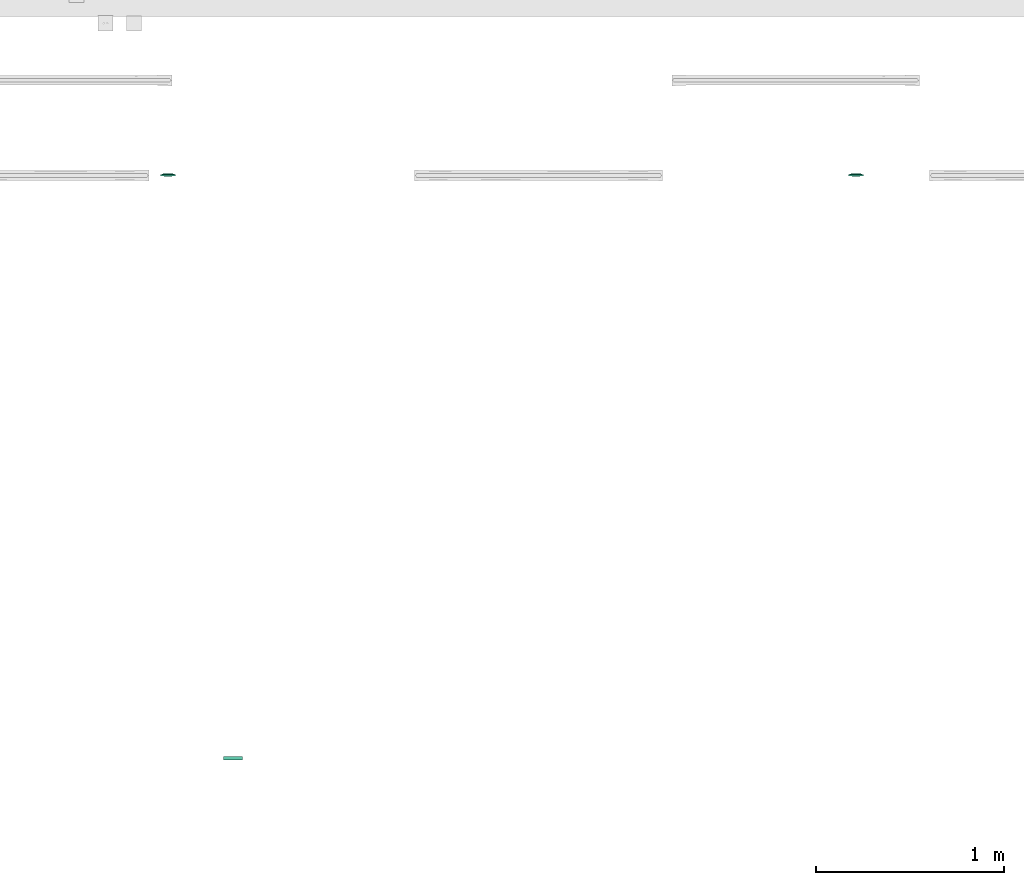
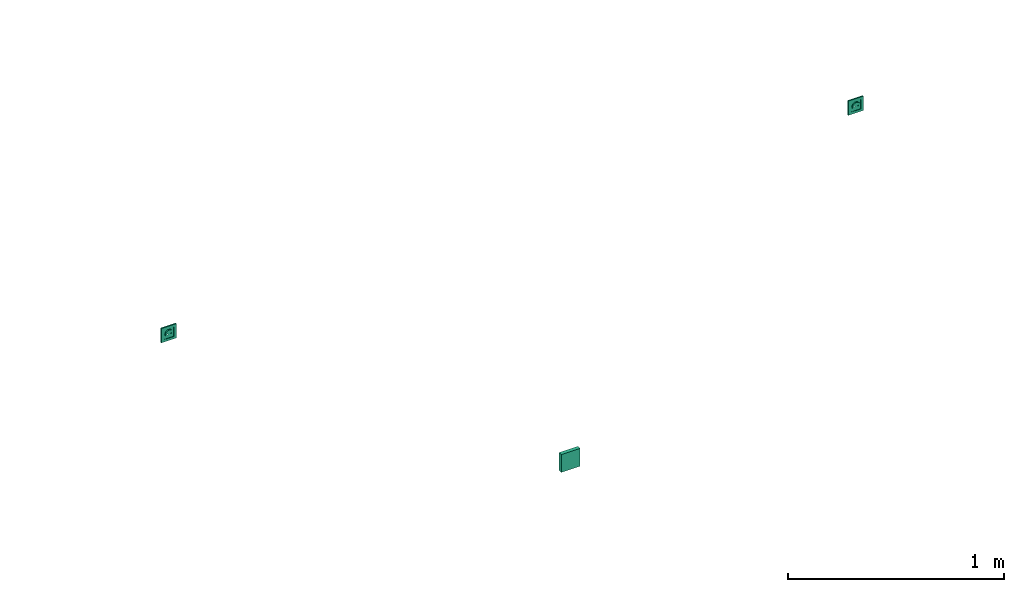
# One storey, part 7 of 146: 3 flow terminals.
"""IFC2X3 building model written with IfcOpenShell, lengths in metres."""

from ifc_helpers import new_model, entity, si_unit, converted_unit, derived_unit, direction, frame, origin, origin_2d_with_axis, place, context, subcontext, project, spatial, rectangle, extrude, face_set, surface_model, source, transform, mapped, type_object, type_shapes, element, save


model = new_model("IFC2X3")

# Units and contexts
model_context = context("Model", 3, precision=1e-05, world=origin(), true_north=direction((6.12303176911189e-17, 1.0)))
body_context = subcontext(model_context, "Body", "Model", "MODEL_VIEW")
ifc_project = project(units=[si_unit("LENGTHUNIT", "METRE"), si_unit("AREAUNIT", "SQUARE_METRE"), si_unit("VOLUMEUNIT", "CUBIC_METRE"), converted_unit("PLANEANGLEUNIT", "DEGREE", entity("IfcRatioMeasure", 0.0174532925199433), si_unit("PLANEANGLEUNIT", "RADIAN"), dimensions=[0, 0, 0, 0, 0, 0, 0]), si_unit("MASSUNIT", "GRAM", prefix="KILO"), derived_unit("MASSDENSITYUNIT", [(si_unit("MASSUNIT", "GRAM", prefix="KILO"), 1), (si_unit("LENGTHUNIT", "METRE"), -3)]), si_unit("TIMEUNIT", "SECOND"), si_unit("FREQUENCYUNIT", "HERTZ"), si_unit("THERMODYNAMICTEMPERATUREUNIT", "DEGREE_CELSIUS"), derived_unit("THERMALTRANSMITTANCEUNIT", [(si_unit("MASSUNIT", "GRAM", prefix="KILO"), 1), (si_unit("THERMODYNAMICTEMPERATUREUNIT", "KELVIN"), -1), (si_unit("TIMEUNIT", "SECOND"), -3)]), derived_unit("VOLUMETRICFLOWRATEUNIT", [(si_unit("LENGTHUNIT", "METRE"), 3), (si_unit("TIMEUNIT", "SECOND"), -1)]), si_unit("ELECTRICCURRENTUNIT", "AMPERE"), si_unit("ELECTRICVOLTAGEUNIT", "VOLT"), si_unit("POWERUNIT", "WATT"), si_unit("FORCEUNIT", "NEWTON"), si_unit("ILLUMINANCEUNIT", "LUX"), si_unit("LUMINOUSFLUXUNIT", "LUMEN"), si_unit("LUMINOUSINTENSITYUNIT", "CANDELA"), derived_unit("USERDEFINED", [(si_unit("MASSUNIT", "GRAM", prefix="KILO"), -1), (si_unit("LENGTHUNIT", "METRE"), -2), (si_unit("TIMEUNIT", "SECOND"), 3), (si_unit("LUMINOUSFLUXUNIT", "LUMEN"), 1)]), derived_unit("LINEARVELOCITYUNIT", [(si_unit("LENGTHUNIT", "METRE"), 1), (si_unit("TIMEUNIT", "SECOND"), -1)]), si_unit("PRESSUREUNIT", "PASCAL"), derived_unit("USERDEFINED", [(si_unit("LENGTHUNIT", "METRE"), -2), (si_unit("MASSUNIT", "GRAM", prefix="KILO"), 1), (si_unit("TIMEUNIT", "SECOND"), -2)])], contexts=[model_context])

# Site, building, storey
site_placement = place(None, origin())
site = spatial("IfcSite", under=ifc_project, at=site_placement, Name="Default", CompositionType="ELEMENT")
building_placement = place(site_placement, origin())
building = spatial("IfcBuilding", under=site, at=building_placement, CompositionType="ELEMENT")
storey_placement = place(building_placement, origin())
storey = spatial("IfcBuildingStorey", under=building, at=storey_placement, Name="S01", CompositionType="ELEMENT", Elevation=0.0)

# Flow terminals
light_fixture_type_1 = type_object("IfcLightFixtureType", Name="Default", PredefinedType="NOTDEFINED")
shared_shape_1 = source(origin(), body_context, "Body", "SweptSolid", [
    extrude(rectangle(XDim=0.1, YDim=0.1, at=origin_2d_with_axis()), frame((0.0, 0.0, 0.0), z_axis=(0.0, 0.0, 1.0), x_axis=(0.0, 1.0, 0.0)), (0.0, 0.0, 1.0), 0.02),
])
type_shapes(light_fixture_type_1, [shared_shape_1])
flow_terminal_placement = place(building_placement, frame((28.5197436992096, -193.489651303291, 1.05000000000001), z_axis=(0.0, -1.0, 0.0), x_axis=(1.0, 0.0, 0.0)))
element("IfcFlowTerminal", 1, at=flow_terminal_placement, inside=storey, type_object=light_fixture_type_1, Name="E_Reader_Badge 1_F_MEPcontent:Default", ObjectType="E_Reader_Badge 1_F_MEPcontent:Default", context=body_context, shape_type="MappedRepresentation", body=[
    mapped(shared_shape_1, transform((0.0, 0.0, 0.0), scale=1.0)),
])
light_fixture_type_2 = type_object("IfcLightFixtureType", Name="Attente", PredefinedType="NOTDEFINED")
shared_shape_2 = source(origin(), body_context, "Body", "SurfaceModel", [
    surface_model("IfcFaceBasedSurfaceModel", [(0.00225000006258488, 0.00949633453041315, 0.0127499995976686), (0.0, 0.00949633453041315, 0.0104999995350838), (0.0, 0.0101656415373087, 0.0115376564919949), (0.0, 0.0101656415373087, 0.0139623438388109), (0.0, 0.00984531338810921, 0.0144589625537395), (0.0, 0.0102778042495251, 0.0121178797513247), (0.0, 0.0102778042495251, 0.0133821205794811), (0.0, 0.010399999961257, 0.0127499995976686), (0.0, 0.00949633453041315, 0.0149999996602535), (-0.00225000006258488, 0.00949633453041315, 0.0127499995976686), (0.0, 0.00984531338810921, 0.0110410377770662), (0.0, 0.00949633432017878, 0.0127499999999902), (-0.0022499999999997, 0.0094963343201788, 0.0127499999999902), (-0.00217333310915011, 0.00949633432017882, 0.0121676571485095), (-0.0019485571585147, 0.00949633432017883, 0.0116249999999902), (-0.00159099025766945, 0.00949633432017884, 0.0111590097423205), (-0.00112499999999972, 0.00949633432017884, 0.0108014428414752), (-0.000582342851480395, 0.00949633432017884, 0.0105766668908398), (0.0, 0.00949633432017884, 0.0104999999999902), (0.000582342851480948, 0.00949633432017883, 0.0105766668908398), (0.00112500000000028, 0.00949633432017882, 0.0108014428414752), (0.00159099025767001, 0.00949633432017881, 0.0111590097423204), (0.00194855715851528, 0.00949633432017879, 0.0116249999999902), (0.0021733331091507, 0.00949633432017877, 0.0121676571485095), (0.0022500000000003, 0.00949633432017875, 0.0127499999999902), (0.00217333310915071, 0.00949633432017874, 0.0133323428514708), (0.0019485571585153, 0.00949633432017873, 0.0138749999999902), (0.00159099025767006, 0.00949633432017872, 0.0143409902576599), (0.00112500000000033, 0.00949633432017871, 0.0146985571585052), (0.000582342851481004, 0.00949633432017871, 0.0149233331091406), (0.0, 0.00949633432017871, 0.0149999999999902), (-0.000582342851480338, 0.00949633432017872, 0.0149233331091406), (-0.00112499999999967, 0.00949633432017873, 0.0146985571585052), (-0.00159099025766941, 0.00949633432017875, 0.0143409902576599), (-0.00194855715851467, 0.00949633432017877, 0.0138749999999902), (-0.00217333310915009, 0.00949633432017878, 0.0133323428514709), (-0.00224999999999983, -0.00360000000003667, 0.0127499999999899), (-0.00217333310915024, -0.00360000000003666, 0.0121676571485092), (-0.00194855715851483, -0.00360000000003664, 0.0116249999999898), (-0.00159099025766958, -0.00360000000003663, 0.0111590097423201), (-0.00112499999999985, -0.00360000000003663, 0.0108014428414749), (-0.000582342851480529, -0.00360000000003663, 0.0105766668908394), (0.0, -0.00360000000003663, 0.0104999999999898), (0.000582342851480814, -0.00360000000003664, 0.0105766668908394), (0.00112500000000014, -0.00360000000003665, 0.0108014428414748), (0.00159099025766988, -0.00360000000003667, 0.0111590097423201), (0.00194855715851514, -0.00360000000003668, 0.0116249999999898), (0.00217333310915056, -0.0036000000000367, 0.0121676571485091), (0.00225000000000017, -0.00360000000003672, 0.0127499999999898), (0.00217333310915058, -0.00360000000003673, 0.0133323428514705), (0.00194855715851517, -0.00360000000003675, 0.0138749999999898), (0.00159099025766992, -0.00360000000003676, 0.0143409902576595), (0.00112500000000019, -0.00360000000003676, 0.0146985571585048), (0.00058234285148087, -0.00360000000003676, 0.0149233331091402), (0.0, -0.00360000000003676, 0.0149999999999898), (-0.000582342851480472, -0.00360000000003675, 0.0149233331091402), (-0.0011249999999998, -0.00360000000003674, 0.0146985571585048), (-0.00159099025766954, -0.00360000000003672, 0.0143409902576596), (-0.0019485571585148, -0.00360000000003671, 0.0138749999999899), (-0.00217333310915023, -0.00360000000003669, 0.0133323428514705), (-0.0270000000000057, 0.0113999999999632, 0.0269999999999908), (0.0269999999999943, 0.0113999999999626, 0.0269999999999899), (0.0269999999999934, 0.0113999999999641, -0.0270000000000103), (-0.0270000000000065, 0.0113999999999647, -0.0270000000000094), (0.0199999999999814, 0.0113999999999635, 0.0), (0.0193185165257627, 0.0113999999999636, -0.00517638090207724), (0.0173205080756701, 0.0113999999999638, -0.0100000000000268), (0.0141421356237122, 0.0113999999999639, -0.0141421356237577), (0.00999999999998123, 0.011399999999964, -0.0173205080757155), (0.00517638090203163, 0.0113999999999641, -0.019318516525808), (0.0, 0.0113999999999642, -0.0200000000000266), (-0.00517638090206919, 0.0113999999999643, -0.0193185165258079), (-0.0100000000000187, 0.0113999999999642, -0.0173205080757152), (-0.0141421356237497, 0.0113999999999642, -0.0141421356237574), (-0.0173205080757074, 0.0113999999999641, -0.0100000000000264), (-0.0193185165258, 0.011399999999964, -0.0051763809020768), (-0.0200000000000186, 0.0113999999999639, 0.0), (-0.0193185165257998, 0.0113999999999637, 0.00517638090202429), (-0.0173205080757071, 0.0113999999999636, 0.00999999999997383), (-0.0141421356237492, 0.0113999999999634, 0.0141421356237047), (-0.0100000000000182, 0.0113999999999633, 0.0173205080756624), (-0.00517638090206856, 0.0113999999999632, 0.0193185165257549), (0.0, 0.0113999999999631, 0.0199999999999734), (0.00517638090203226, 0.0113999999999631, 0.0193185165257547), (0.0099999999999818, 0.0113999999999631, 0.017320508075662), (0.0141421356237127, 0.0113999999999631, 0.0141421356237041), (0.0173205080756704, 0.0113999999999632, 0.00999999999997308), (0.0193185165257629, 0.0113999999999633, 0.00517638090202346), (-0.0270000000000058, 0.00199999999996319, 0.0269999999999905), (-0.0270000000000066, 0.00199999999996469, -0.0270000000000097), (0.0269999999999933, 0.00199999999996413, -0.0270000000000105), (0.0269999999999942, 0.00199999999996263, 0.0269999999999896), (-0.0210000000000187, 0.00199999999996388, 0.0), (-0.0202844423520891, 0.00199999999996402, -0.00543519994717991), (-0.0181865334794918, 0.00199999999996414, -0.0105000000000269), (-0.0148492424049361, 0.00199999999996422, -0.0148492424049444), (-0.0105000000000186, 0.00199999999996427, -0.0181865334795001), (-0.00543519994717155, 0.00199999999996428, -0.0202844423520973), (0.0, 0.00199999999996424, -0.0210000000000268), (0.00543519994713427, 0.00199999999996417, -0.0202844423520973), (0.0104999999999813, 0.00199999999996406, -0.0181865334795), (0.0148492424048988, 0.00199999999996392, -0.0148492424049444), (0.0181865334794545, 0.00199999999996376, -0.0105000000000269), (0.0202844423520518, 0.0019999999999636, -0.00543519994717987), (0.0209999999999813, 0.00199999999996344, 0.0), (0.0202844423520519, 0.0019999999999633, 0.0054351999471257), (0.0181865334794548, 0.00199999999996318, 0.0104999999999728), (0.0148492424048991, 0.00199999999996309, 0.0148492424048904), (0.0104999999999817, 0.00199999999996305, 0.0181865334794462), (0.00543519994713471, 0.00199999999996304, 0.0202844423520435), (0.0, 0.00199999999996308, 0.0209999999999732), (-0.00543519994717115, 0.00199999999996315, 0.0202844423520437), (-0.0105000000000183, 0.00199999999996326, 0.0181865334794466), (-0.0148492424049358, 0.0019999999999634, 0.014849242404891), (-0.0181865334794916, 0.00199999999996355, 0.0104999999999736), (-0.020284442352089, 0.00199999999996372, 0.00543519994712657), (-0.0200000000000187, -0.00360000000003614, 0.0), (-0.0193185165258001, -0.003600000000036, -0.00517638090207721), (-0.0173205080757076, -0.00360000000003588, -0.0100000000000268), (-0.0141421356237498, -0.0036000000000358, -0.0141421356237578), (-0.0100000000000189, -0.00360000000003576, -0.0173205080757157), (-0.00517638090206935, -0.00360000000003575, -0.0193185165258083), (0.0, -0.00360000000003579, -0.020000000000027), (0.00517638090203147, -0.00360000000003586, -0.0193185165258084), (0.00999999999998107, -0.00360000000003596, -0.0173205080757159), (0.0141421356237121, -0.00360000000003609, -0.0141421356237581), (0.0173205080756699, -0.00360000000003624, -0.0100000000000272), (0.0193185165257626, -0.0036000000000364, -0.00517638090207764), (0.0199999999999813, -0.00360000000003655, 0.0), (0.0193185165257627, -0.00360000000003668, 0.00517638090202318), (0.0173205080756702, -0.0036000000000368, 0.00999999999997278), (0.0141421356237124, -0.00360000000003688, 0.0141421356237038), (0.00999999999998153, -0.00360000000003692, 0.0173205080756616), (0.00517638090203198, -0.00360000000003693, 0.0193185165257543), (0.0, -0.0036000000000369, 0.019999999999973), (-0.00517638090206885, -0.00360000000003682, 0.0193185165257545), (-0.0100000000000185, -0.00360000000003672, 0.0173205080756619), (-0.0141421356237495, -0.00360000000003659, 0.0141421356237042), (-0.0173205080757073, -0.00360000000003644, 0.00999999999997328), (-0.0193185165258, -0.00360000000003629, 0.00517638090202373), (0.0123499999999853, -0.00360000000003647, 0.0), (0.0122562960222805, -0.00360000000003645, -0.000711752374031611), (0.0119815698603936, -0.00360000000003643, -0.00137499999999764), (0.0115445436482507, -0.00360000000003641, -0.00194454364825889), (0.0109749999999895, -0.00360000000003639, -0.00238156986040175), (0.0103117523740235, -0.00360000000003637, -0.00265629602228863), (0.00959999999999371, -0.00360000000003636, -0.00274999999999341), (0.00888824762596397, -0.00360000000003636, -0.00265629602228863), (0.00822499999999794, -0.00360000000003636, -0.00238156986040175), (0.00765545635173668, -0.00360000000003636, -0.00194454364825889), (0.00721843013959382, -0.00360000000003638, -0.00137499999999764), (0.00694370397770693, -0.00360000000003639, -0.000711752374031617), (0.00685000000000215, -0.00360000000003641, 0.0), (0.00694370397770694, -0.00360000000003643, 0.000711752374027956), (0.00721843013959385, -0.00360000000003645, 0.00137499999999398), (0.00765545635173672, -0.00360000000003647, 0.00194454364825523), (0.00822499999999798, -0.00360000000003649, 0.00238156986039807), (0.00888824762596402, -0.00360000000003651, 0.00265629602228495), (0.00959999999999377, -0.00360000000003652, 0.0027499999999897), (0.0103117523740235, -0.00360000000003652, 0.00265629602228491), (0.0109749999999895, -0.00360000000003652, 0.00238156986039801), (0.0115445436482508, -0.00360000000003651, 0.00194454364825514), (0.0119815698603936, -0.0036000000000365, 0.00137499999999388), (0.0122562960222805, -0.00360000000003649, 0.000711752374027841), (-0.00685000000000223, -0.00360000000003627, 0.0), (-0.00694370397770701, -0.00360000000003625, -0.000711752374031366), (-0.0072184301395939, -0.00360000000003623, -0.00137499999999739), (-0.00765545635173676, -0.00360000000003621, -0.00194454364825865), (-0.00822499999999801, -0.00360000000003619, -0.0023815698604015), (-0.00888824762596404, -0.00360000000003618, -0.00265629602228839), (-0.00959999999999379, -0.00360000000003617, -0.00274999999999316), (-0.0103117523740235, -0.00360000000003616, -0.00265629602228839), (-0.0109749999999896, -0.00360000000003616, -0.00238156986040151), (-0.0115445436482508, -0.00360000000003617, -0.00194454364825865), (-0.0119815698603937, -0.00360000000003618, -0.0013749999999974), (-0.0122562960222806, -0.0036000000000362, -0.000711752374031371), (-0.0123499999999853, -0.00360000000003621, 0.0), (-0.0122562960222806, -0.00360000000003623, 0.000711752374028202), (-0.0119815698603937, -0.00360000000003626, 0.00137499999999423), (-0.0115445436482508, -0.00360000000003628, 0.00194454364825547), (-0.0109749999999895, -0.00360000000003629, 0.00238156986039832), (-0.0103117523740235, -0.00360000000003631, 0.00265629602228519), (-0.00959999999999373, -0.00360000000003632, 0.00274999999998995), (-0.00888824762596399, -0.00360000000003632, 0.00265629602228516), (-0.00822499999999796, -0.00360000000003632, 0.00238156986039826), (-0.00765545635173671, -0.00360000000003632, 0.00194454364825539), (-0.00721843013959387, -0.0036000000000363, 0.00137499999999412), (-0.00694370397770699, -0.00360000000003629, 0.000711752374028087), (-0.0210000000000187, -0.00460000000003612, 0.0), (-0.0202844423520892, -0.00460000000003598, -0.00543519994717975), (-0.018186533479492, -0.00460000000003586, -0.0105000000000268), (-0.0148492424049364, -0.00460000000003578, -0.0148492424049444), (-0.0105000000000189, -0.00460000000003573, -0.0181865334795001), (-0.00543519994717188, -0.00460000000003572, -0.0202844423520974), (0.0, -0.00460000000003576, -0.021000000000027), (0.00543519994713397, -0.00460000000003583, -0.0202844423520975), (0.0104999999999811, -0.00460000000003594, -0.0181865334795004), (0.0148492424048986, -0.00460000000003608, -0.0148492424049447), (0.0181865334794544, -0.00460000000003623, -0.0105000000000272), (0.0202844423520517, -0.0046000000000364, -0.0054351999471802), (0.0209999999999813, -0.00460000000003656, 0.0), (0.0202844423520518, -0.0046000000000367, 0.00543519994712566), (0.0181865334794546, -0.00460000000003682, 0.0104999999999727), (0.014849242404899, -0.00460000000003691, 0.0148492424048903), (0.0104999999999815, -0.00460000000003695, 0.0181865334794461), (0.0054351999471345, -0.00460000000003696, 0.0202844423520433), (0.0, -0.00460000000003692, 0.020999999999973), (-0.00543519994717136, -0.00460000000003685, 0.0202844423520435), (-0.0105000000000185, -0.00460000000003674, 0.0181865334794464), (-0.014849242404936, -0.0046000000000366, 0.0148492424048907), (-0.0181865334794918, -0.00460000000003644, 0.0104999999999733), (-0.0202844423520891, -0.00460000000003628, 0.00543519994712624), (0.00685000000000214, -0.00460000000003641, 0.0), (0.00694370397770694, -0.00460000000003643, 0.000711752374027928), (0.00721843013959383, -0.00460000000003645, 0.00137499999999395), (0.0076554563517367, -0.00460000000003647, 0.0019445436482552), (0.00822499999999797, -0.00460000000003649, 0.00238156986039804), (0.00888824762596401, -0.0046000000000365, 0.00265629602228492), (0.00959999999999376, -0.00460000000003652, 0.00274999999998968), (0.0103117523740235, -0.00460000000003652, 0.00265629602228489), (0.0109749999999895, -0.00460000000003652, 0.00238156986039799), (0.0115445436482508, -0.00460000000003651, 0.00194454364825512), (0.0119815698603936, -0.0046000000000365, 0.00137499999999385), (0.0122562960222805, -0.00460000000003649, 0.000711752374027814), (0.0123499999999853, -0.00460000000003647, 0.0), (0.0122562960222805, -0.00460000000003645, -0.00071175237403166), (0.0119815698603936, -0.00460000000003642, -0.00137499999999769), (0.0115445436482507, -0.0046000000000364, -0.00194454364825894), (0.0109749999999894, -0.00460000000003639, -0.00238156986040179), (0.0103117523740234, -0.00460000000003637, -0.00265629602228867), (0.00959999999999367, -0.00460000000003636, -0.00274999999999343), (0.00888824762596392, -0.00460000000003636, -0.00265629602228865), (0.00822499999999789, -0.00460000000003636, -0.00238156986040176), (0.00765545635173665, -0.00460000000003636, -0.00194454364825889), (0.00721843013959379, -0.00460000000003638, -0.00137499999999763), (0.00694370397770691, -0.00460000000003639, -0.0007117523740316), (-0.0123499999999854, -0.00460000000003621, 0.0), (-0.0122562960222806, -0.00460000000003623, 0.000711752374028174), (-0.0119815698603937, -0.00460000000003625, 0.0013749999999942), (-0.0115445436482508, -0.00460000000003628, 0.00194454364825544), (-0.0109749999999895, -0.00460000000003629, 0.00238156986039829), (-0.0103117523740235, -0.00460000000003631, 0.00265629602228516), (-0.00959999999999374, -0.00460000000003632, 0.00274999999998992), (-0.008888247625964, -0.00460000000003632, 0.00265629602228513), (-0.00822499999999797, -0.00460000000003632, 0.00238156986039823), (-0.00765545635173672, -0.00460000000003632, 0.00194454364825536), (-0.00721843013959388, -0.0046000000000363, 0.0013749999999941), (-0.006943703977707, -0.00460000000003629, 0.000711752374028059), (-0.00685000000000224, -0.00460000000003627, 0.0), (-0.00694370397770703, -0.00460000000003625, -0.000711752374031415), (-0.00721843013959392, -0.00460000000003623, -0.00137499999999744), (-0.00765545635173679, -0.00460000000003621, -0.00194454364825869), (-0.00822499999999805, -0.00460000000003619, -0.00238156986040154), (-0.00888824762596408, -0.00460000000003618, -0.00265629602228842), (-0.00959999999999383, -0.00460000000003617, -0.00274999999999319), (-0.0103117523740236, -0.00460000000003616, -0.00265629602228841), (-0.0109749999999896, -0.00460000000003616, -0.00238156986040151), (-0.0115445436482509, -0.00460000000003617, -0.00194454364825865), (-0.0119815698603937, -0.00460000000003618, -0.00137499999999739), (-0.0122562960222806, -0.00460000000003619, -0.000711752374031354), (-0.0403499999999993, 0.00659999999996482, 0.0403499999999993), (-0.0403500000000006, 0.00659999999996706, -0.0403500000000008), (0.0403499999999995, 0.00659999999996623, -0.0403500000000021), (0.0403500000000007, 0.00659999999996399, 0.040349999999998), (-0.0269999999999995, 0.00659999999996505, 0.026999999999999), (0.0270000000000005, 0.0065999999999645, 0.0269999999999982), (0.0269999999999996, 0.006599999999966, -0.0270000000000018), (-0.0270000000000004, 0.00659999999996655, -0.027000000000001), (-0.0269999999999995, 0.0103999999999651, 0.0269999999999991), (0.0270000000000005, 0.0103999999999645, 0.0269999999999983), (0.0269999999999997, 0.010399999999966, -0.0270000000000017), (-0.0270000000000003, 0.0103999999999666, -0.0270000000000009), (-0.0403499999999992, 0.00659999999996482, 0.0403499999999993), (-0.0403500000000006, 0.00659999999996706, -0.0403500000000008), (0.0403499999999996, 0.00659999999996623, -0.0403500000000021), (0.0403500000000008, 0.00659999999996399, 0.040349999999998), (0.0270000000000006, 0.0065999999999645, 0.0269999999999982), (0.0269999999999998, 0.006599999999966, -0.0270000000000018), (-0.0270000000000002, 0.00659999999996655, -0.027000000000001), (-0.0269999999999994, 0.00659999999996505, 0.026999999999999), (-0.0403499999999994, 0.0, 0.0403499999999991), (-0.0403500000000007, 0.0, -0.040350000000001), (0.0403499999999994, 0.0, -0.0403500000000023), (0.0403500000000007, 0.0, 0.0403499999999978), (-0.0269999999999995, 0.0, 0.0269999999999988), (0.0270000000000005, 0.0, 0.026999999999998), (0.0269999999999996, 0.0, -0.027000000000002), (-0.0270000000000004, 0.0, -0.0270000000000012)], [face_set([[[0, 1, 2]], [[3, 4, 2, 5]], [[6, 3, 5, 7]], [[2, 4, 0]], [[4, 8, 0]], [[3, 9, 8]], [[1, 9, 10]], [[2, 3, 6, 7]], [[3, 10, 9]], [[2, 10, 3]], [[11, 1, 0, 8]], [[11, 8, 9, 1]]]), face_set([[[12, 13, 14, 15, 16, 17, 18, 19, 20, 21, 22, 23, 24, 25, 26, 27, 28, 29, 30, 31, 32, 33, 34, 35]], [[36, 37, 38, 39, 40, 41, 42, 43, 44, 45, 46, 47, 48, 49, 50, 51, 52, 53, 54, 55, 56, 57, 58, 59]], [[48, 47, 23, 24]], [[47, 46, 22, 23]], [[45, 44, 20, 21]], [[46, 45, 21, 22]], [[44, 43, 19, 20]], [[18, 19, 43, 42]], [[42, 41, 17, 18]], [[41, 40, 16, 17]], [[39, 38, 14, 15]], [[40, 39, 15, 16]], [[38, 37, 13, 14]], [[12, 13, 37, 36]], [[36, 59, 35, 12]], [[59, 58, 34, 35]], [[57, 56, 32, 33]], [[58, 57, 33, 34]], [[56, 55, 31, 32]], [[30, 31, 55, 54]], [[54, 53, 29, 30]], [[53, 52, 28, 29]], [[51, 50, 26, 27]], [[52, 51, 27, 28]], [[50, 49, 25, 26]], [[24, 25, 49, 48]]]), face_set([[[60, 61, 62, 63], [64, 65, 66, 67, 68, 69, 70, 71, 72, 73, 74, 75, 76, 77, 78, 79, 80, 81, 82, 83, 84, 85, 86, 87]], [[88, 89, 90, 91], [92, 93, 94, 95, 96, 97, 98, 99, 100, 101, 102, 103, 104, 105, 106, 107, 108, 109, 110, 111, 112, 113, 114, 115]], [[61, 60, 88, 91]], [[62, 61, 91, 90]], [[63, 62, 90, 89]], [[60, 63, 89, 88]], [[116, 117, 118, 119, 120, 121, 122, 123, 124, 125, 126, 127, 128, 129, 130, 131, 132, 133, 134, 135, 136, 137, 138, 139], [140, 141, 142, 143, 144, 145, 146, 147, 148, 149, 150, 151, 152, 153, 154, 155, 156, 157, 158, 159, 160, 161, 162, 163], [164, 165, 166, 167, 168, 169, 170, 171, 172, 173, 174, 175, 176, 177, 178, 179, 180, 181, 182, 183, 184, 185, 186, 187]], [[64, 128, 127, 65]], [[65, 127, 126, 66]], [[67, 125, 124, 68]], [[66, 126, 125, 67]], [[68, 124, 123, 69]], [[122, 70, 69, 123]], [[70, 122, 121, 71]], [[71, 121, 120, 72]], [[73, 119, 118, 74]], [[72, 120, 119, 73]], [[74, 118, 117, 75]], [[116, 76, 75, 117]], [[76, 116, 139, 77]], [[77, 139, 138, 78]], [[79, 137, 136, 80]], [[78, 138, 137, 79]], [[80, 136, 135, 81]], [[134, 82, 81, 135]], [[82, 134, 133, 83]], [[83, 133, 132, 84]], [[84, 132, 131, 85]], [[85, 131, 130, 86]], [[130, 129, 87, 86]], [[64, 87, 129, 128]], [[188, 189, 190, 191, 192, 193, 194, 195, 196, 197, 198, 199, 200, 201, 202, 203, 204, 205, 206, 207, 208, 209, 210, 211], [212, 213, 214, 215, 216, 217, 218, 219, 220, 221, 222, 223, 224, 225, 226, 227, 228, 229, 230, 231, 232, 233, 234, 235], [236, 237, 238, 239, 240, 241, 242, 243, 244, 245, 246, 247, 248, 249, 250, 251, 252, 253, 254, 255, 256, 257, 258, 259]], [[200, 199, 103, 104]], [[199, 198, 102, 103]], [[197, 196, 100, 101]], [[198, 197, 101, 102]], [[196, 195, 99, 100]], [[98, 99, 195, 194]], [[194, 193, 97, 98]], [[193, 192, 96, 97]], [[191, 190, 94, 95]], [[192, 191, 95, 96]], [[190, 189, 93, 94]], [[92, 93, 189, 188]], [[188, 211, 115, 92]], [[211, 210, 114, 115]], [[209, 208, 112, 113]], [[210, 209, 113, 114]], [[208, 207, 111, 112]], [[110, 111, 207, 206]], [[206, 205, 109, 110]], [[205, 204, 108, 109]], [[203, 202, 106, 107]], [[204, 203, 107, 108]], [[202, 201, 105, 106]], [[104, 105, 201, 200]], [[141, 225, 226, 142]], [[140, 224, 225, 141]], [[144, 228, 229, 145]], [[143, 227, 228, 144]], [[142, 226, 227, 143]], [[230, 146, 145, 229]], [[149, 233, 232, 148]], [[148, 232, 231, 147]], [[152, 212, 235, 151]], [[151, 235, 234, 150]], [[150, 234, 233, 149]], [[146, 230, 231, 147]], [[154, 214, 213, 153]], [[153, 213, 212, 152]], [[157, 217, 216, 156]], [[156, 216, 215, 155]], [[155, 215, 214, 154]], [[218, 158, 157, 217]], [[160, 220, 221, 161]], [[159, 219, 220, 160]], [[163, 223, 224, 140]], [[162, 222, 223, 163]], [[161, 221, 222, 162]], [[158, 218, 219, 159]], [[166, 250, 249, 165]], [[165, 249, 248, 164]], [[169, 253, 252, 168]], [[168, 252, 251, 167]], [[167, 251, 250, 166]], [[254, 170, 169, 253]], [[172, 256, 257, 173]], [[171, 255, 256, 172]], [[175, 259, 236, 176]], [[174, 258, 259, 175]], [[173, 257, 258, 174]], [[170, 254, 255, 171]], [[177, 237, 238, 178]], [[176, 236, 237, 177]], [[180, 240, 241, 181]], [[179, 239, 240, 180]], [[178, 238, 239, 179]], [[242, 182, 181, 241]], [[185, 245, 244, 184]], [[184, 244, 243, 183]], [[164, 248, 247, 187]], [[187, 247, 246, 186]], [[186, 246, 245, 185]], [[182, 242, 243, 183]]]), face_set([[[260, 261, 262, 263], [264, 265, 266, 267]], [[260, 268, 269, 263]], [[263, 269, 270, 262]], [[262, 270, 271, 261]], [[261, 271, 268, 260]], [[264, 265, 269, 268]], [[265, 266, 270, 269]], [[266, 267, 271, 270]], [[268, 271, 267, 264]]]), face_set([[[272, 273, 274, 275], [276, 277, 278, 279]], [[280, 281, 282, 283], [284, 285, 286, 287]], [[275, 272, 280, 283]], [[274, 275, 283, 282]], [[273, 274, 282, 281]], [[272, 273, 281, 280]], [[284, 285, 276, 279]], [[285, 286, 277, 276]], [[286, 287, 278, 277]], [[279, 278, 287, 284]]])]),
])
type_shapes(light_fixture_type_2, [shared_shape_2])
for number, where, name in (
    (2, (31.8393223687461, -190.395292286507, 0.0), "INT_Attente électrique:Attente"),
    (3, (28.1733223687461, -190.395292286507, 0.0), "INT_Attente électrique:Attente"),
):
    element("IfcFlowTerminal", number, at=place(storey_placement, frame(where)), inside=storey, type_object=light_fixture_type_2, Name=name, ObjectType="INT_Attente électrique:Attente", context=body_context, shape_type="MappedRepresentation", body=[
        mapped(shared_shape_2, transform((0.0, 0.0, 0.0), scale=1.0)),
    ])

save(model, "model.ifc")
